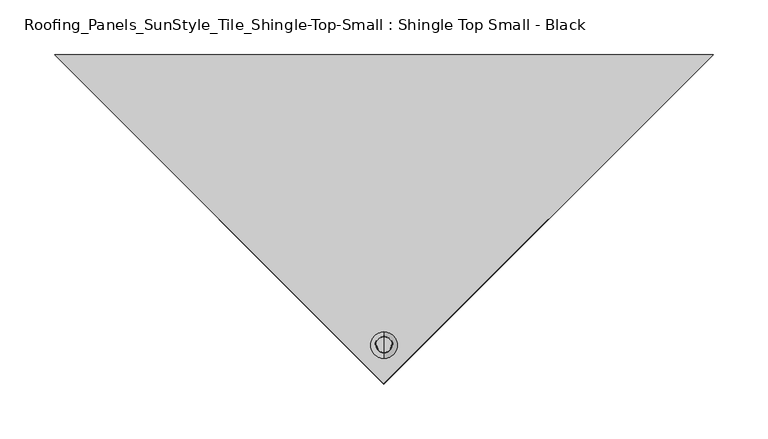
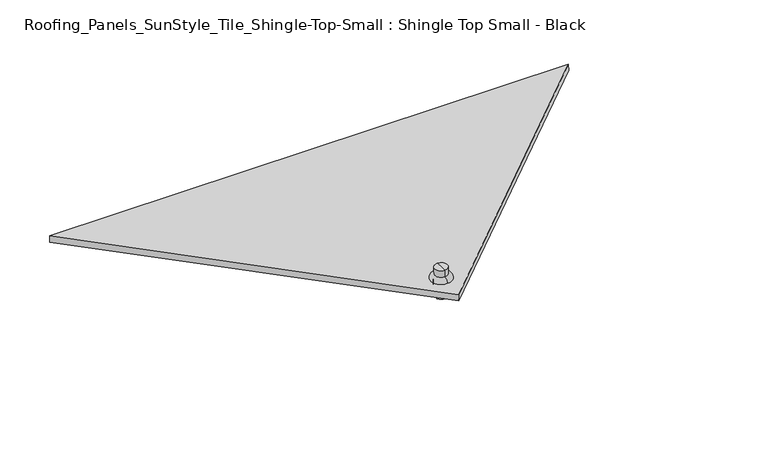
"""IFC4 building model written with IfcOpenShell, lengths in millimetres: proxy geometry, Roofing_Panels_SunStyle_Tile_Shingle-Top-Small : Shingle Top Small - Black."""

from ifc_helpers import new_model, si_unit, point, frame, frame_2d, origin, place, context, project, spatial, polyline, circle_curve, ellipse_curve, trimmed, segment, composite_curve, outline, extrude, source, transform, mapped, element, save
from ifc_brep_helpers import plane_surface, cylinder_surface, revolved_surface, advanced_brep


def roofing_panels_sunstyle_tile_shingle_top_small_shingle_top_a40e7fca(model_context):
    return source(origin(), model_context, "Body", "SolidModel", [
        advanced_brep(
        [(0.0, -586.5275412, 26.2215343), (0.0, -573.1944607, 25.9982384), (0.0, -573.5627698, 4.0063691), (0.0, -586.8958503, 4.229665), (0.0, -592.0267701, 26.3136327), (0.0, -567.6952318, 25.90614), (0.0, -587.0777737, 31.2274395), (0.0, -572.4769108, 30.9829114), (0.0, -579.6433138, 39.1080636), (0.0, -572.3428823, 38.9857996), (0.0, -586.9437453, 39.2303277), (0.0, -580.22931, 4.118017)],
        [
            (0, 1, circle_curve(frame((0.0, -579.8610009, 26.1098864), z_axis=(0.0, -0.016745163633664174, -0.9998597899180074), x_axis=(0.0, 0.9998597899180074, -0.016745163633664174)), 6.6674751)),
            (1, 2),
            (2, 3, circle_curve(frame((0.0, -580.22931, 4.118017), z_axis=(0.0, 0.016745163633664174, 0.9998597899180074), x_axis=(0.0, 0.9998597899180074, -0.016745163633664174)), 6.6674751)),
            (3, 0),
            (1, 0, circle_curve(frame((0.0, -579.8610009, 26.1098864), z_axis=(0.0, -0.016745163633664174, -0.9998597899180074), x_axis=(0.0, 0.9998597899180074, -0.016745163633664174)), 6.6674751)),
            (3, 2, circle_curve(frame((0.0, -580.22931, 4.118017), z_axis=(0.0, 0.016745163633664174, 0.9998597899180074), x_axis=(0.0, 0.9998597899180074, -0.016745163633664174)), 6.6674751)),
            (4, 5, circle_curve(frame((0.0, -579.8610009, 26.1098864), z_axis=(0.0, -0.016745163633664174, -0.9998597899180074), x_axis=(0.0, 0.9998597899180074, -0.016745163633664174)), 12.1674751)),
            (5, 1),
            (0, 4),
            (5, 4, circle_curve(frame((0.0, -579.8610009, 26.1098864), z_axis=(0.0, -0.016745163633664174, -0.9998597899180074), x_axis=(0.0, 0.9998597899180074, -0.016745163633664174)), 12.1674751)),
            (6, 7, circle_curve(frame((0.0, -579.7773423, 31.1051755), z_axis=(0.0, -0.016745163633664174, -0.9998597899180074), x_axis=(0.0, 0.9998597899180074, -0.016745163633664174)), 7.3014552)),
            (7, 5, circle_curve(frame((0.0, -572.7811088, 25.90614), z_axis=(-1.0, 0.0, 0.0), x_axis=(0.0, -1.0, 0.0)), 5.0858769)),
            (4, 6, circle_curve(frame((0.0, -586.9437453, 26.1433289), z_axis=(-1.0, 0.0, 0.0), x_axis=(0.0, 0.9994391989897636, -0.03348563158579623)), 5.0858769)),
            (7, 6, circle_curve(frame((0.0, -579.7773423, 31.1051755), z_axis=(0.0, -0.016745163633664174, -0.9998597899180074), x_axis=(0.0, 0.9998597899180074, -0.016745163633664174)), 7.3014552)),
            (8, 9),
            (9, 10, circle_curve(frame((0.0, -579.6433138, 39.1080636), z_axis=(0.0, 0.016745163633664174, 0.9998597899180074), x_axis=(0.0, 0.9998597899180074, -0.016745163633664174)), 7.3014552)),
            (10, 8),
            (10, 9, circle_curve(frame((0.0, -579.6433138, 39.1080636), z_axis=(0.0, 0.016745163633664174, 0.9998597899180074), x_axis=(0.0, 0.9998597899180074, -0.016745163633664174)), 7.3014552)),
            (2, 11),
            (11, 3),
            (9, 7),
            (6, 10),
        ],
        [
            cylinder_surface(frame((0.0, -579.6433138, 39.1080636), z_axis=(0.0, 0.016745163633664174, 0.9998597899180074), x_axis=(0.0, 0.9998597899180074, -0.016745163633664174)), 6.6674751),
            plane_surface(frame((0.0, -579.8610009, 26.1098864), z_axis=(0.0, -0.016745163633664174, -0.9998597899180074), x_axis=(0.0, 0.9998597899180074, -0.016745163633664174))),
            revolved_surface(trimmed(ellipse_curve(frame((0.0, -572.7811088, 25.90614), z_axis=(1.0, 0.0, 0.0), x_axis=(0.0, -1.0, 0.0)), 5.0858769, 5.0858769), [point((0.0, -567.6952318, 25.90614))], [point((0.0, -572.4769108, 30.9829114))], True, "CARTESIAN"), (0.0, -579.6433138, 39.1080636), (0.0, 0.016745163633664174, 0.9998597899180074)),
            plane_surface(frame((0.0, -579.6433138, 39.1080636), z_axis=(0.0, 0.016745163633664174, 0.9998597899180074), x_axis=(0.0, 0.9998597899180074, -0.016745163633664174))),
            plane_surface(frame((0.0, -580.22931, 4.118017), z_axis=(0.0, -0.016745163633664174, -0.9998597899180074), x_axis=(0.0, 0.9998597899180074, -0.016745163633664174))),
            cylinder_surface(frame((0.0, -579.6433138, 39.1080636), z_axis=(0.0, 0.016745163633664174, 0.9998597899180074), x_axis=(0.0, 0.9998597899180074, -0.016745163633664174)), 7.3014552),
        ],
        [
            (0, [[1, 2, 3, 4]]),
            (0, [[5, -4, 6, -2]]),
            (1, [[7, 8, -1, 9]]),
            (1, [[10, -9, -5, -8]]),
            (2, [[11, 12, -7, 13]]),
            (2, [[14, -13, -10, -12]]),
            (3, [[15, 16, 17]]),
            (3, [[-17, 18, -15]]),
            (4, [[-3, 19, 20]]),
            (4, [[-6, -20, -19]]),
            (5, [[-16, 21, -11, 22]]),
            (5, [[-18, -22, -14, -21]]),
        ],
    ),
        extrude(outline(polyline([(300.6753308, 0.0), (0.0, -300.6331731), (-300.6753307, 0.0), (300.6753308, 0.0)]), holes=[composite_curve([segment(trimmed(circle_curve(frame_2d((-0.0003225, -265.2734955)), 8.0), [point((-8.0003225, -265.2734955))], [point((7.9996775, -265.2734955))], True, "CARTESIAN"), True, "CONTINUOUS"), segment(trimmed(circle_curve(frame_2d((-0.0003225, -265.2734955)), 8.0), [point((7.9996775, -265.2734955))], [point((-8.0003225, -265.2734955))], True, "CARTESIAN"), True, "CONTINUOUS")], self_intersect=False)]), frame((0.0003225, -314.7447334, 14.0737637), z_axis=(0.0, 0.01674516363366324, 0.9998597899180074), x_axis=(1.0, 0.0, 0.0)), (0.0, 0.0, 1.0), 7.5),
    ])


if __name__ == "__main__":
    model = new_model("IFC4")
    model_context = context("Model", 3, world=origin())
    ifc_project = project(units=[si_unit("LENGTHUNIT", "METRE", prefix="MILLI")], contexts=[model_context])
    site = spatial("IfcSite", under=ifc_project)
    building = spatial("IfcBuilding", under=site)
    placement = place(None, origin())
    roofing_panels_sunstyle_tile_shingle_top_small_shingle_top_shape = roofing_panels_sunstyle_tile_shingle_top_small_shingle_top_a40e7fca(model_context)
    element("IfcBuildingElementProxy", 1, Name="Roofing_Panels_SunStyle_Tile_Shingle-Top-Small : Shingle Top Small - Black", ObjectType="Roofing_Panels_SunStyle_Tile_Shingle-Top-Small : Shingle Top Small - Black", at=placement, inside=building, context=model_context, shape_type="MappedRepresentation", body=[
        mapped(roofing_panels_sunstyle_tile_shingle_top_small_shingle_top_shape, transform((0.0, 0.0, 0.0), x_axis=(1.0, 0.0, 0.0), y_axis=(0.0, 1.0, 0.0), z_axis=(0.0, 0.0, 1.0))),
    ])
    save(model, "model.ifc")
